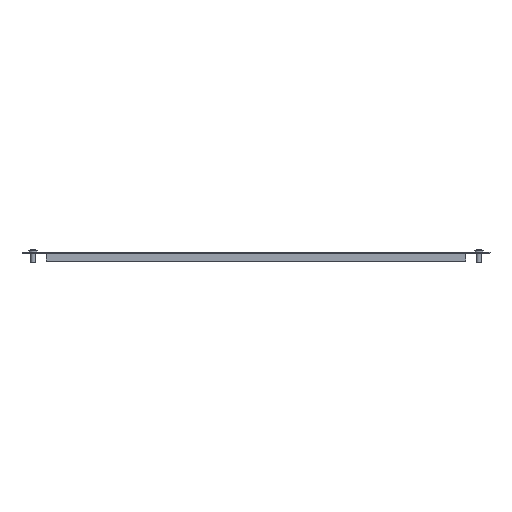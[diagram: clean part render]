
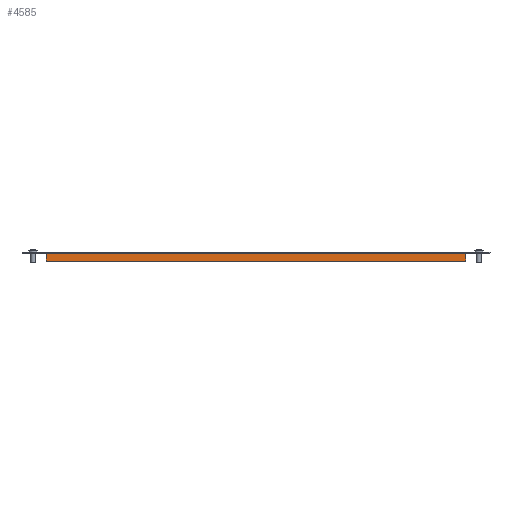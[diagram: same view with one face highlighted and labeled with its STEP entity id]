
A CAD part, front view. The second image highlights one B-rep face of the part: STEP entity #4585.
In plain terms, the highlighted planar face has unit normal (0, -1, 0).
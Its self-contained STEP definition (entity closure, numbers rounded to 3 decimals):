
#124 = LINE ( 'NONE', #1463, #1893 ) ;
#188 = CARTESIAN_POINT ( 'NONE',  ( 0., -299., 0. ) ) ;
#219 = DIRECTION ( 'NONE',  ( 0., 0., 1. ) ) ;
#383 = CARTESIAN_POINT ( 'NONE',  ( -235.5, -299., -2.4 ) ) ;
#611 = EDGE_CURVE ( 'NONE', #1169, #1189, #721, .T. ) ;
#625 = CARTESIAN_POINT ( 'NONE',  ( 235.5, -299., -2.4 ) ) ;
#716 = AXIS2_PLACEMENT_3D ( 'NONE', #188, #2810, #4098 ) ;
#721 = LINE ( 'NONE', #4598, #2260 ) ;
#814 = VECTOR ( 'NONE', #2492, 1000. ) ;
#864 = LINE ( 'NONE', #3814, #814 ) ;
#1048 = LINE ( 'NONE', #3103, #5097 ) ;
#1157 = DIRECTION ( 'NONE',  ( 0., 0., 1. ) ) ;
#1169 = VERTEX_POINT ( 'NONE', #625 ) ;
#1189 = VERTEX_POINT ( 'NONE', #3608 ) ;
#1268 = ORIENTED_EDGE ( 'NONE', *, *, #2340, .F. ) ;
#1463 = CARTESIAN_POINT ( 'NONE',  ( 0., -299., 0. ) ) ;
#1689 = ORIENTED_EDGE ( 'NONE', *, *, #1750, .T. ) ;
#1708 = ORIENTED_EDGE ( 'NONE', *, *, #1993, .F. ) ;
#1750 = EDGE_CURVE ( 'NONE', #1169, #3636, #2152, .T. ) ;
#1893 = VECTOR ( 'NONE', #4799, 1000. ) ;
#1993 = EDGE_CURVE ( 'NONE', #1189, #4006, #864, .T. ) ;
#2152 = LINE ( 'NONE', #4913, #4359 ) ;
#2211 = CARTESIAN_POINT ( 'NONE',  ( -235.5, -299., -10. ) ) ;
#2260 = VECTOR ( 'NONE', #5009, 1000. ) ;
#2331 = LINE ( 'NONE', #4032, #5212 ) ;
#2340 = EDGE_CURVE ( 'NONE', #4006, #5260, #2331, .T. ) ;
#2397 = VERTEX_POINT ( 'NONE', #5012 ) ;
#2492 = DIRECTION ( 'NONE',  ( -1., 0., 0. ) ) ;
#2810 = DIRECTION ( 'NONE',  ( 0., -1., 0. ) ) ;
#2954 = CARTESIAN_POINT ( 'NONE',  ( 235.5, -299., 0. ) ) ;
#3103 = CARTESIAN_POINT ( 'NONE',  ( -235.5, -299., 0. ) ) ;
#3549 = DIRECTION ( 'NONE',  ( 0., 0., 1. ) ) ;
#3562 = ORIENTED_EDGE ( 'NONE', *, *, #4876, .T. ) ;
#3608 = CARTESIAN_POINT ( 'NONE',  ( 235.5, -299., -10. ) ) ;
#3636 = VERTEX_POINT ( 'NONE', #2954 ) ;
#3814 = CARTESIAN_POINT ( 'NONE',  ( -235.5, -299., -10. ) ) ;
#3942 = EDGE_LOOP ( 'NONE', ( #5125, #1689, #3562, #4521, #1268, #1708 ) ) ;
#4006 = VERTEX_POINT ( 'NONE', #2211 ) ;
#4032 = CARTESIAN_POINT ( 'NONE',  ( -235.5, -299., -1.8 ) ) ;
#4098 = DIRECTION ( 'NONE',  ( 1., 0., 0. ) ) ;
#4359 = VECTOR ( 'NONE', #1157, 1000. ) ;
#4521 = ORIENTED_EDGE ( 'NONE', *, *, #4902, .F. ) ;
#4585 = ADVANCED_FACE ( 'NONE', ( #5257 ), #5344, .T. ) ;
#4598 = CARTESIAN_POINT ( 'NONE',  ( 235.5, -299., -10. ) ) ;
#4799 = DIRECTION ( 'NONE',  ( -1., 0., 0. ) ) ;
#4876 = EDGE_CURVE ( 'NONE', #3636, #2397, #124, .T. ) ;
#4902 = EDGE_CURVE ( 'NONE', #5260, #2397, #1048, .T. ) ;
#4913 = CARTESIAN_POINT ( 'NONE',  ( 235.5, -299., -2.4 ) ) ;
#5009 = DIRECTION ( 'NONE',  ( 0., 0., -1. ) ) ;
#5012 = CARTESIAN_POINT ( 'NONE',  ( -235.5, -299., 0. ) ) ;
#5097 = VECTOR ( 'NONE', #3549, 1000. ) ;
#5125 = ORIENTED_EDGE ( 'NONE', *, *, #611, .F. ) ;
#5212 = VECTOR ( 'NONE', #219, 1000. ) ;
#5257 = FACE_OUTER_BOUND ( 'NONE', #3942, .T. ) ;
#5260 = VERTEX_POINT ( 'NONE', #383 ) ;
#5344 = PLANE ( 'NONE',  #716 ) ;
